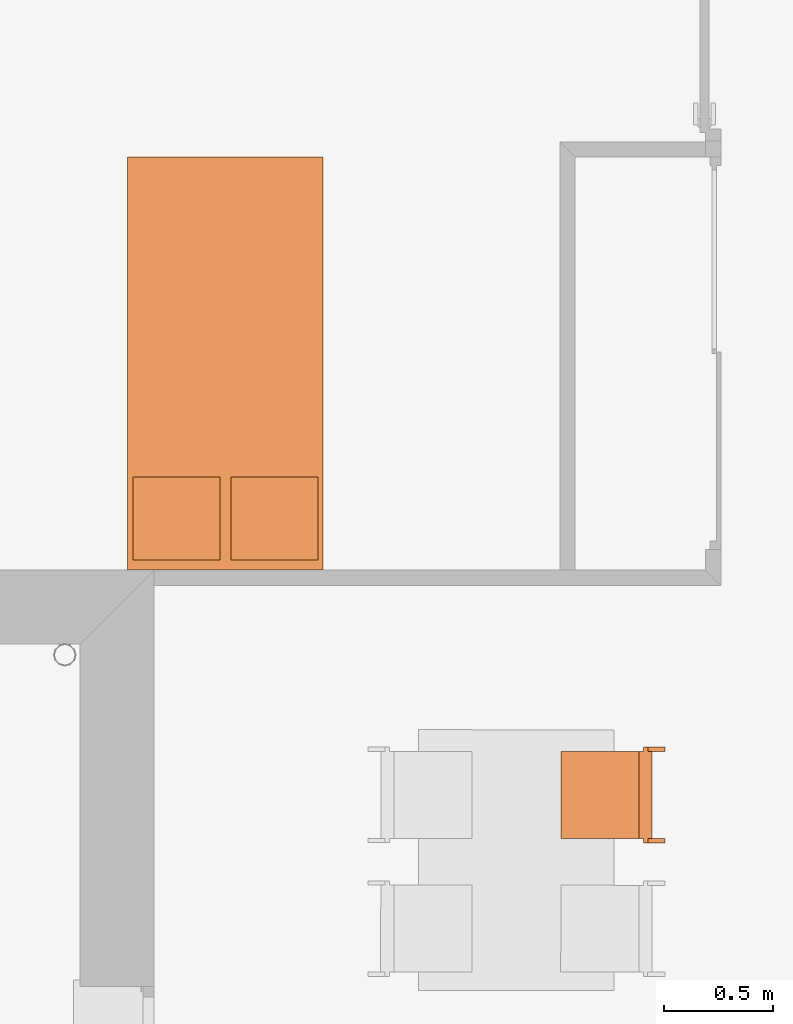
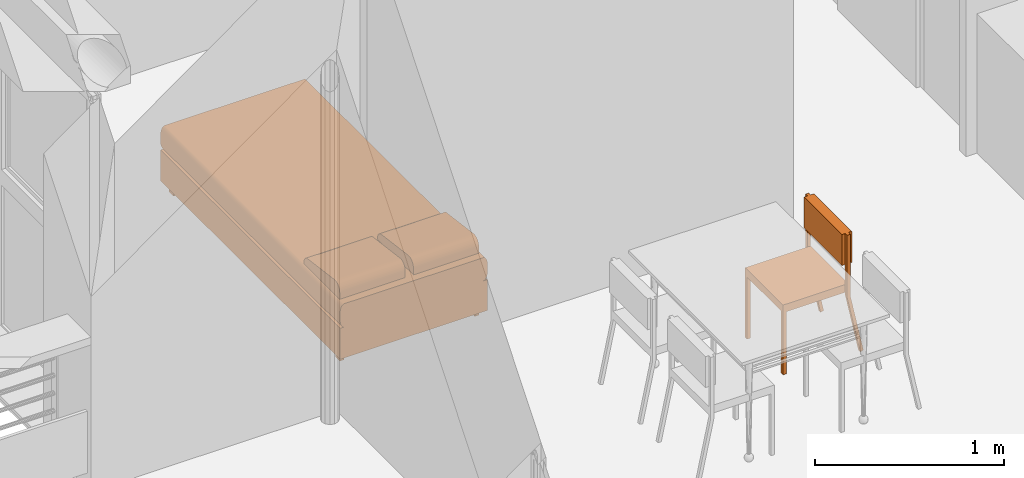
# One storey, part 144 of 164: 2 proxies.
"""IFC2X3 building model written with IfcOpenShell, lengths in millimetres."""

from ifc_helpers import new_model, entity, si_unit, converted_unit, derived_unit, money_unit, direction, frame, origin_with_axes, place, context, subcontext, project, spatial, open_shell, faceted_brep, surface_model, source, transform, mapped, type_object, element, save


model = new_model("IFC2X3")

# Units and contexts
model_context = context("Model", 3, precision=0.01, world=origin_with_axes(), true_north=direction((0.0, 1.0)))
body_context = subcontext(model_context, "Body", "Model", "MODEL_VIEW")
ifc_project = project(units=[si_unit("LENGTHUNIT", "METRE", prefix="MILLI"), si_unit("AREAUNIT", "SQUARE_METRE"), si_unit("VOLUMEUNIT", "CUBIC_METRE"), converted_unit("PLANEANGLEUNIT", "DEGREE", entity("IfcPlaneAngleMeasure", 0.0174532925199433), si_unit("PLANEANGLEUNIT", "RADIAN"), dimensions=[0, 0, 0, 0, 0, 0, 0]), money_unit("USD"), converted_unit("TIMEUNIT", "Year", entity("IfcTimeMeasure", 31557600.0), si_unit("TIMEUNIT", "SECOND"), dimensions=[0, 0, 1, 0, 0, 0, 0]), si_unit("MASSUNIT", "GRAM", prefix="KILO"), si_unit("THERMODYNAMICTEMPERATUREUNIT", "DEGREE_CELSIUS"), si_unit("LUMINOUSINTENSITYUNIT", "LUMEN"), si_unit("ENERGYUNIT", "JOULE", prefix="MEGA"), derived_unit("THERMALCONDUCTANCEUNIT", [(si_unit("POWERUNIT", "WATT"), 1), (si_unit("LENGTHUNIT", "METRE"), -1), (si_unit("THERMODYNAMICTEMPERATUREUNIT", "KELVIN"), -1)]), derived_unit("SPECIFICHEATCAPACITYUNIT", [(si_unit("ENERGYUNIT", "JOULE"), 1), (si_unit("MASSUNIT", "GRAM", prefix="KILO"), -1), (si_unit("THERMODYNAMICTEMPERATUREUNIT", "KELVIN"), -1)]), derived_unit("MASSDENSITYUNIT", [(si_unit("MASSUNIT", "GRAM", prefix="KILO"), 1), (si_unit("VOLUMEUNIT", "CUBIC_METRE"), -1)])], contexts=[model_context])

# Site, building, storey
site_placement = place(None, origin_with_axes())
site = spatial("IfcSite", under=ifc_project, at=site_placement, Name="Site", CompositionType="ELEMENT")
building_placement = place(site_placement, origin_with_axes())
building = spatial("IfcBuilding", under=site, at=building_placement, Name="Bâtiment", CompositionType="ELEMENT")
storey_placement = place(building_placement, frame((0.0, 0.0, 5750.0), z_axis=(0.0, 0.0, 1.0), x_axis=(1.0, 0.0, 0.0)))
storey = spatial("IfcBuildingStorey", under=building, at=storey_placement, Name="Etage1", CompositionType="ELEMENT", Elevation=5750.0)

# Proxies
building_element_proxy_type = type_object("IfcBuildingElementProxyType", PredefinedType="NOTDEFINED")
shared_shape_1 = source(origin_with_axes(), body_context, "Body", "Brep", [
    faceted_brep([(39.99999978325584, 0.0, 0.0), (19.99999989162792, 0.0, 0.0), (19.99999989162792, 19.99999936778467, 0.0), (39.99999978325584, 19.99999936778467, 0.0), (39.99999978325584, 0.0, 400.0), (19.99999989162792, 0.0, 400.0), (19.99999989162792, 19.99999936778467, 400.0), (39.99999978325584, 19.99999936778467, 400.0)], [[[0, 1, 2, 3]], [[1, 0, 4, 5]], [[2, 1, 5, 6]], [[3, 2, 6, 7]], [[0, 3, 7, 4]], [[5, 4, 7, 6]]]),
    faceted_brep([(419.9999977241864, 0.0, 0.0), (399.9999978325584, 0.0, 0.0), (399.9999978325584, 19.99999936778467, 0.0), (419.9999977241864, 19.99999936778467, 0.0), (419.9999977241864, 0.0, 400.0), (399.9999978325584, 0.0, 400.0), (399.9999978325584, 19.99999936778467, 400.0), (419.9999977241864, 19.99999936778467, 400.0)], [[[0, 1, 2, 3]], [[1, 0, 4, 5]], [[2, 1, 5, 6]], [[3, 2, 6, 7]], [[0, 3, 7, 4]], [[5, 4, 7, 6]]]),
    faceted_brep([(399.9999978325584, 0.0, 400.0000000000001), (39.99999978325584, 0.0, 400.0000000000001), (39.99999978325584, 19.99999936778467, 400.0000000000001), (399.9999978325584, 19.99999936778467, 400.0000000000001), (399.9999978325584, 0.0, 420.0000000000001), (39.99999978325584, 0.0, 420.0000000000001), (39.99999978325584, 19.99999936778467, 420.0000000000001), (399.9999978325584, 19.99999936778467, 420.0000000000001)], [[[0, 1, 2, 3]], [[1, 0, 4, 5]], [[2, 1, 5, 6]], [[3, 2, 6, 7]], [[0, 3, 7, 4]], [[5, 4, 7, 6]]]),
    faceted_brep([(39.99999978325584, 19.99999936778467, 400.0000000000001), (19.99999989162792, 19.99999936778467, 400.0000000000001), (19.99999989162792, 379.9999879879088, 400.0000000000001), (39.99999978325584, 379.9999879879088, 400.0000000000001), (39.99999978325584, 19.99999936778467, 420.0000000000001), (19.99999989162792, 19.99999936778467, 420.0000000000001), (19.99999989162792, 379.9999879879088, 420.0000000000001), (39.99999978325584, 379.9999879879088, 420.0000000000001)], [[[0, 1, 2, 3]], [[1, 0, 4, 5]], [[2, 1, 5, 6]], [[3, 2, 6, 7]], [[0, 3, 7, 4]], [[5, 4, 7, 6]]]),
    faceted_brep([(419.9999977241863, 379.9999879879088, 400.0000000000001), (19.99999989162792, 379.9999879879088, 400.0000000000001), (19.99999989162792, 399.9999873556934, 400.0000000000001), (419.9999977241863, 399.9999873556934, 400.0000000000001), (419.9999977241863, 379.9999879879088, 420.0000000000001), (19.99999989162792, 379.9999879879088, 420.0000000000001), (19.99999989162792, 399.9999873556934, 420.0000000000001), (419.9999977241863, 399.9999873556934, 420.0000000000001)], [[[0, 1, 2, 3]], [[1, 0, 4, 5]], [[2, 1, 5, 6]], [[3, 2, 6, 7]], [[0, 3, 7, 4]], [[5, 4, 7, 6]]]),
    faceted_brep([(419.9999977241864, 19.99999936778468, 400.0000000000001), (399.9999978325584, 19.99999936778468, 400.0000000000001), (399.9999978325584, 379.9999879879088, 400.0000000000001), (419.9999977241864, 379.9999879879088, 400.0000000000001), (419.9999977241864, 19.99999936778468, 420.0000000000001), (399.9999978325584, 19.99999936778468, 420.0000000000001), (399.9999978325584, 379.9999879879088, 420.0000000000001), (419.9999977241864, 379.9999879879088, 420.0000000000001)], [[[0, 1, 2, 3]], [[1, 0, 4, 5]], [[2, 1, 5, 6]], [[3, 2, 6, 7]], [[0, 3, 7, 4]], [[5, 4, 7, 6]]]),
    faceted_brep([(419.9999977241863, 0.0, 400.0), (19.99999989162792, 0.0, 400.0), (19.99999989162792, 399.9999873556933, 400.0), (419.9999977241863, 399.9999873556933, 400.0), (419.9999977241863, 0.0, 450.0), (19.99999989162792, 0.0, 450.0), (19.99999989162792, 399.9999873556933, 450.0), (419.9999977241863, 399.9999873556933, 450.0)], [[[0, 1, 2, 3]], [[1, 0, 4, 5]], [[2, 1, 5, 6]], [[3, 2, 6, 7]], [[0, 3, 7, 4]], [[5, 4, 7, 6]]]),
    faceted_brep([(19.99999989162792, 379.9999879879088, 380.0), (0.0, 379.9999879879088, 380.0), (0.0, 399.9999873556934, 380.0), (19.99999989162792, 399.9999873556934, 380.0), (19.99999989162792, 379.9999879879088, 780.0), (0.0, 379.9999879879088, 780.0), (0.0, 399.9999873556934, 780.0), (19.99999989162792, 399.9999873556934, 780.0)], [[[0, 1, 2, 3]], [[1, 0, 4, 5]], [[2, 1, 5, 6]], [[3, 2, 6, 7]], [[0, 3, 7, 4]], [[5, 4, 7, 6]]]),
    faceted_brep([(439.9999976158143, 379.9999879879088, 380.0), (419.9999977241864, 379.9999879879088, 380.0), (419.9999977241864, 399.9999873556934, 380.0), (439.9999976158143, 399.9999873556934, 380.0), (439.9999976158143, 379.9999879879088, 780.0), (419.9999977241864, 379.9999879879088, 780.0), (419.9999977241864, 399.9999873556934, 780.0), (439.9999976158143, 399.9999873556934, 780.0)], [[[0, 1, 2, 3]], [[1, 0, 4, 5]], [[2, 1, 5, 6]], [[3, 2, 6, 7]], [[0, 3, 7, 4]], [[5, 4, 7, 6]]]),
    faceted_brep([(419.9999977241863, 359.999988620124, 580.0000000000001), (19.99999989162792, 359.999988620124, 580.0000000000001), (19.99999989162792, 419.9999867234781, 580.0000000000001), (419.9999977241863, 419.9999867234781, 580.0000000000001), (419.9999977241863, 359.999988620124, 780.0), (19.99999989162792, 359.999988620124, 780.0), (19.99999989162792, 419.9999867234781, 780.0), (419.9999977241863, 419.9999867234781, 780.0)], [[[0, 1, 2, 3]], [[1, 0, 4, 5]], [[2, 1, 5, 6]], [[3, 2, 6, 7]], [[0, 3, 7, 4]], [[5, 4, 7, 6]]]),
    faceted_brep([(19.99999989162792, 459.9999854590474, 0.0), (0.0, 459.9999854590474, 0.0), (0.0, 479.5709559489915, 4.120326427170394), (19.99999989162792, 479.5709559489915, 4.120326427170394), (19.99999989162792, 379.997669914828, 379.999760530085), (0.0, 379.997669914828, 379.999760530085), (0.0, 399.5686404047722, 384.1200869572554), (19.99999989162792, 399.5686404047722, 384.1200869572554)], [[[0, 1, 2, 3]], [[1, 0, 4, 5]], [[2, 1, 5, 6]], [[3, 2, 6, 7]], [[0, 3, 7, 4]], [[5, 4, 7, 6]]]),
    faceted_brep([(439.9999976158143, 459.9999854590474, 0.0), (419.9999977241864, 459.9999854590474, 0.0), (419.9999977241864, 479.5709559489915, 4.120326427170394), (439.9999976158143, 479.5709559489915, 4.120326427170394), (439.9999976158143, 379.997669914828, 379.999760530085), (419.9999977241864, 379.997669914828, 379.999760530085), (419.9999977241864, 399.5686404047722, 384.1200869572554), (439.9999976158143, 399.5686404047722, 384.1200869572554)], [[[0, 1, 2, 3]], [[1, 0, 4, 5]], [[2, 1, 5, 6]], [[3, 2, 6, 7]], [[0, 3, 7, 4]], [[5, 4, 7, 6]]]),
])
proxy_1_placement = place(storey_placement, frame((2220345.250777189, -639490.6261789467, 0.0), z_axis=(0.0, 0.0, 1.0), x_axis=(-0.0005412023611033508, -0.9999998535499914, 0.0)))
element("IfcBuildingElementProxy", 1, at=proxy_1_placement, inside=storey, type_object=building_element_proxy_type, Name="Obj.-027", context=body_context, shape_type="MappedRepresentation", body=[
    mapped(shared_shape_1, transform((0.0, 0.0, 0.0))),
])
shared_shape_2 = source(origin_with_axes(), body_context, "Body", "SurfaceModel", [
    faceted_brep([(400.0, -95.0, 0.0), (400.0, -47.5, 0.0), (425.0000000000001, -47.5, 0.0), (425.0000000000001, -95.0, 0.0), (400.0, -95.0, 50.0), (400.0, -47.5, 50.0), (425.0000000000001, -47.5, 50.0), (425.0000000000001, -95.0, 50.0)], [[[0, 1, 2, 3]], [[0, 4, 5, 1]], [[1, 5, 6, 2]], [[2, 6, 7, 3]], [[3, 7, 4, 0]], [[7, 6, 5, 4]]]),
    faceted_brep([(400.0, -1852.5, 0.0), (400.0, -1805.0, 0.0), (425.0000000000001, -1805.0, 0.0), (425.0000000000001, -1852.5, 0.0), (400.0, -1852.5, 50.0), (400.0, -1805.0, 50.0), (425.0000000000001, -1805.0, 50.0), (425.0000000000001, -1852.5, 50.0)], [[[0, 1, 2, 3]], [[0, 4, 5, 1]], [[1, 5, 6, 2]], [[2, 6, 7, 3]], [[3, 7, 4, 0]], [[7, 6, 5, 4]]]),
    faceted_brep([(-425.0000000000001, -1852.5, 0.0), (-425.0000000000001, -1805.0, 0.0), (-400.0, -1805.0, 0.0), (-400.0, -1852.5, 0.0), (-425.0000000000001, -1852.5, 50.0), (-425.0000000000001, -1805.0, 50.0), (-400.0, -1805.0, 50.0), (-400.0, -1852.5, 50.0)], [[[0, 1, 2, 3]], [[0, 4, 5, 1]], [[1, 5, 6, 2]], [[2, 6, 7, 3]], [[3, 7, 4, 0]], [[7, 6, 5, 4]]]),
    faceted_brep([(-425.0000000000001, -94.99999999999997, 0.0), (-425.0000000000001, -47.49999999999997, 0.0), (-400.0, -47.49999999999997, 0.0), (-400.0, -94.99999999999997, 0.0), (-425.0000000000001, -94.99999999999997, 50.0), (-425.0000000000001, -47.49999999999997, 50.0), (-400.0, -47.49999999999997, 50.0), (-400.0, -94.99999999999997, 50.0)], [[[0, 1, 2, 3]], [[0, 4, 5, 1]], [[1, 5, 6, 2]], [[2, 6, 7, 3]], [[3, 7, 4, 0]], [[7, 6, 5, 4]]]),
    faceted_brep([(450.0, 0.0, 50.0), (450.0, -1900.0, 50.00000000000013), (-450.0, -1900.0, 50.00000000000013), (-450.0, 0.0, 50.0), (450.0, 0.0, 250.0), (450.0, -1900.0, 250.0000000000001), (-450.0, -1900.0, 250.0000000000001), (-450.0, 0.0, 250.0)], [[[0, 1, 2, 3]], [[4, 5, 1, 0]], [[1, 5, 6, 2]], [[3, 2, 6, 7]], [[0, 3, 7, 4]], [[7, 6, 5, 4]]]),
    surface_model("IfcShellBasedSurfaceModel", [(-425.0000000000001, 0.0, 250.0), (-425.0000000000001, -1900.0, 250.0000000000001), (-429.3412044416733, -1900.0, 250.7596123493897), (-429.3412044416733, 0.0, 250.7596123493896), (425.0000000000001, -1900.0, 250.0000000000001), (429.3412044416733, -1900.0, 250.7596123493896), (433.5505035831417, -1900.0, 253.0153689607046), (437.5, -1900.0, 256.6987298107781), (441.0696902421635, -1900.0, 261.6977778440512), (444.1511110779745, -1900.0, 267.8606195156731), (446.650635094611, -1900.0, 275.0000000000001), (448.4923155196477, -1900.0, 282.8989928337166), (449.6201938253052, -1900.0, 291.3175911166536), (450.0, -1900.0, 300.0000000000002), (450.0000000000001, -1900.0, 350.0000000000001), (449.6201938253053, -1900.0, 358.6824088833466), (448.4923155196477, -1900.0, 367.1010071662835), (446.650635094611, -1900.0, 375.0000000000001), (444.1511110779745, -1900.0, 382.1393804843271), (441.0696902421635, -1900.0, 388.302222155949), (437.5000000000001, -1900.0, 393.3012701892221), (433.5505035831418, -1900.0, 396.9846310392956), (429.3412044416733, -1900.0, 399.2403876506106), (425.0000000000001, -1900.0, 400.0000000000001), (-425.0, -1900.0, 400.0000000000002), (-429.3412044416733, -1900.0, 399.2403876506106), (-433.5505035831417, -1900.0, 396.9846310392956), (-437.5, -1900.0, 393.3012701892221), (-441.0696902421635, -1900.0, 388.302222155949), (-444.1511110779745, -1900.0, 382.1393804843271), (-446.6506350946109, -1900.0, 375.0000000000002), (-448.4923155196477, -1900.0, 367.1010071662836), (-449.6201938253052, -1900.0, 358.6824088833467), (-450.0, -1900.0, 350.0000000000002), (-450.0, -1900.0, 300.0000000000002), (-449.6201938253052, -1900.0, 291.3175911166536), (-448.4923155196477, -1900.0, 282.8989928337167), (-446.650635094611, -1900.0, 275.0000000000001), (-444.1511110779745, -1900.0, 267.8606195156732), (-441.0696902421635, -1900.0, 261.6977778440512), (-437.5000000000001, -1900.0, 256.6987298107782), (-433.5505035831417, -1900.0, 253.0153689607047), (-433.5505035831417, 0.0, 253.0153689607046), (425.0000000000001, 0.0, 250.0), (-437.5000000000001, 0.0, 256.698729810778), (-441.0696902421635, 0.0, 261.6977778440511), (-444.1511110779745, 0.0, 267.8606195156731), (-446.650635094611, 0.0, 275.0), (-448.4923155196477, 0.0, 282.8989928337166), (-449.6201938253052, 0.0, 291.3175911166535), (-450.0, 0.0, 300.0000000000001), (-450.0, 0.0, 350.0000000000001), (-449.6201938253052, 0.0, 358.6824088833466), (-448.4923155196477, 0.0, 367.1010071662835), (-446.6506350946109, 0.0, 375.0000000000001), (-444.1511110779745, 0.0, 382.139380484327), (-441.0696902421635, 0.0, 388.3022221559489), (-437.5, 0.0, 393.301270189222), (-433.5505035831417, 0.0, 396.9846310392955), (-429.3412044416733, 0.0, 399.2403876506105), (-425.0, 0.0, 400.0000000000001), (425.0000000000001, 0.0, 400.0), (429.3412044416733, 0.0, 399.2403876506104), (433.5505035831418, 0.0, 396.9846310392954), (437.5000000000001, 0.0, 393.301270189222), (441.0696902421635, 0.0, 388.3022221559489), (444.1511110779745, 0.0, 382.139380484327), (446.650635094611, 0.0, 375.0), (448.4923155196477, 0.0, 367.1010071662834), (449.6201938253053, 0.0, 358.6824088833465), (450.0000000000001, 0.0, 350.0), (450.0, 0.0, 300.0000000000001), (449.6201938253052, 0.0, 291.3175911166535), (448.4923155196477, 0.0, 282.8989928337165), (446.650635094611, 0.0, 275.0), (444.1511110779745, 0.0, 267.860619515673), (441.0696902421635, 0.0, 261.6977778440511), (437.5, 0.0, 256.698729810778), (433.5505035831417, 0.0, 253.0153689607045), (429.3412044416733, 0.0, 250.7596123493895)], [open_shell([[[0, 1, 2, 3]], [[4, 5, 6, 7, 8, 9, 10, 11, 12, 13, 14, 15, 16, 17, 18, 19, 20, 21, 22, 23, 24, 25, 26, 27, 28, 29, 30, 31, 32, 33, 34, 35, 36, 37, 38, 39, 40, 41, 2, 1]], [[3, 2, 41, 42]], [[43, 0, 3, 42, 44, 45, 46, 47, 48, 49, 50, 51, 52, 53, 54, 55, 56, 57, 58, 59, 60, 61, 62, 63, 64, 65, 66, 67, 68, 69, 70, 71, 72, 73, 74, 75, 76, 77, 78, 79]], [[79, 5, 4, 43]], [[78, 6, 5, 79]], [[77, 7, 6, 78]], [[76, 8, 7, 77]], [[75, 9, 8, 76]], [[74, 10, 9, 75]], [[73, 11, 10, 74]], [[72, 12, 11, 73]], [[71, 13, 12, 72]], [[70, 14, 13, 71]], [[69, 15, 14, 70]], [[68, 16, 15, 69]], [[67, 17, 16, 68]], [[66, 18, 17, 67]], [[65, 19, 18, 66]], [[64, 20, 19, 65]], [[63, 21, 20, 64]], [[62, 22, 21, 63]], [[61, 23, 22, 62]], [[60, 24, 23, 61]], [[59, 25, 24, 60]], [[58, 26, 25, 59]], [[57, 27, 26, 58]], [[56, 28, 27, 57]], [[55, 29, 28, 56]], [[54, 30, 29, 55]], [[53, 31, 30, 54]], [[52, 32, 31, 53]], [[51, 33, 32, 52]], [[50, 34, 33, 51]], [[49, 35, 34, 50]], [[48, 36, 35, 49]], [[47, 37, 36, 48]], [[46, 38, 37, 47]], [[45, 39, 38, 46]], [[44, 40, 39, 45]], [[42, 41, 40, 44]]])]),
    faceted_brep([(-24.99999999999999, -47.49999999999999, 400.0), (-425.0, -47.50000000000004, 400.0000000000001), (-425.0, -47.50000000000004, 443.4000000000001), (-24.99999999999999, -47.49999999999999, 443.4), (-24.99999999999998, -427.5, 400.0), (-425.0, -427.5, 400.0000000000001), (-425.0, -427.6960812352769, 408.6954428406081), (-425.0, -426.4675711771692, 417.2966661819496), (-425.0, -423.8511300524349, 425.5469991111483), (-425.0, -419.924835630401, 433.2002417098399), (-425.0, -414.8058532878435, 440.0280119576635), (-425.0, -408.6469396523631, 445.826560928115), (-425.0, -401.6318841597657, 450.4228529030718), (-425.0, -393.9700245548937, 453.6797289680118), (-425.0, -385.89, 455.5000000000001), (-425.0, -100.8900000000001, 493.0000000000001), (-425.0, -92.85488048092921, 493.3370808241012), (-425.0, -84.88093291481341, 492.2422169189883), (-425.0, -77.19681007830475, 489.7468034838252), (-425.0, -70.02285403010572, 485.922396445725), (-425.0, -63.56477780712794, 480.878660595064), (-425.0, -58.00776660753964, 474.7602249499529), (-425.0, -53.51116760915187, 467.7425355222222), (-425.0, -50.20392069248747, 460.0268244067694), (-425.0, -48.18086109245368, 451.8343394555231), (-24.99999999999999, -48.18086109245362, 451.834339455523), (-24.99999999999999, -50.20392069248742, 460.0268244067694), (-24.99999999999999, -53.51116760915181, 467.7425355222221), (-24.99999999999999, -58.00776660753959, 474.7602249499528), (-24.99999999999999, -63.56477780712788, 480.878660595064), (-24.99999999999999, -70.02285403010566, 485.922396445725), (-24.99999999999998, -77.19681007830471, 489.7468034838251), (-24.99999999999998, -84.88093291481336, 492.2422169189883), (-24.99999999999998, -92.85488048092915, 493.3370808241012), (-24.99999999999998, -100.89, 493.0000000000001), (-24.99999999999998, -385.89, 455.5), (-24.99999999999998, -393.9700245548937, 453.6797289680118), (-24.99999999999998, -401.6318841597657, 450.4228529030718), (-24.99999999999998, -408.6469396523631, 445.826560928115), (-24.99999999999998, -414.8058532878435, 440.0280119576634), (-24.99999999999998, -419.9248356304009, 433.2002417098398), (-24.99999999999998, -423.8511300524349, 425.5469991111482), (-24.99999999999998, -426.4675711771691, 417.2966661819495), (-24.99999999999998, -427.6960812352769, 408.695442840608)], [[[0, 1, 2, 3]], [[4, 5, 1, 0]], [[1, 5, 6, 7, 8, 9, 10, 11, 12, 13, 14, 15, 16, 17, 18, 19, 20, 21, 22, 23, 24, 2]], [[3, 2, 24, 25]], [[0, 3, 25, 26, 27, 28, 29, 30, 31, 32, 33, 34, 35, 36, 37, 38, 39, 40, 41, 42, 43, 4]], [[43, 6, 5, 4]], [[42, 7, 6, 43]], [[41, 8, 7, 42]], [[40, 9, 8, 41]], [[39, 10, 9, 40]], [[38, 11, 10, 39]], [[37, 12, 11, 38]], [[36, 13, 12, 37]], [[35, 14, 13, 36]], [[34, 15, 14, 35]], [[33, 16, 15, 34]], [[32, 17, 16, 33]], [[31, 18, 17, 32]], [[30, 19, 18, 31]], [[29, 20, 19, 30]], [[28, 21, 20, 29]], [[27, 22, 21, 28]], [[26, 23, 22, 27]], [[25, 24, 23, 26]]]),
    faceted_brep([(425.0000000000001, -47.49999999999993, 399.9999999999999), (25.00000000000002, -47.49999999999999, 400.0), (25.00000000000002, -47.49999999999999, 443.4), (425.0000000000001, -47.49999999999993, 443.4), (425.0000000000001, -427.4999999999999, 399.9999999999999), (25.00000000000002, -427.4999999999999, 400.0), (25.00000000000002, -427.6960812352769, 408.695442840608), (25.00000000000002, -426.4675711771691, 417.2966661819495), (25.00000000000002, -423.8511300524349, 425.5469991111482), (25.00000000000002, -419.9248356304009, 433.2002417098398), (25.00000000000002, -414.8058532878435, 440.0280119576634), (25.00000000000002, -408.6469396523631, 445.826560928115), (25.00000000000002, -401.6318841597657, 450.4228529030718), (25.00000000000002, -393.9700245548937, 453.6797289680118), (25.00000000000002, -385.8899999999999, 455.5), (25.00000000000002, -100.89, 493.0000000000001), (25.00000000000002, -92.85488048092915, 493.3370808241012), (25.00000000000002, -84.88093291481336, 492.2422169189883), (25.00000000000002, -77.19681007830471, 489.7468034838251), (25.00000000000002, -70.02285403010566, 485.922396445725), (25.00000000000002, -63.56477780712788, 480.878660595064), (25.00000000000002, -58.00776660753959, 474.7602249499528), (25.00000000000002, -53.51116760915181, 467.7425355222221), (25.00000000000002, -50.20392069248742, 460.0268244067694), (25.00000000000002, -48.18086109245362, 451.834339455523), (425.0000000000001, -48.18086109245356, 451.834339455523), (425.0000000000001, -50.20392069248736, 460.0268244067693), (425.0000000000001, -53.51116760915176, 467.7425355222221), (425.0000000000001, -58.00776660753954, 474.7602249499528), (425.0000000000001, -63.56477780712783, 480.8786605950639), (425.0000000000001, -70.0228540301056, 485.9223964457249), (425.0000000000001, -77.19681007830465, 489.7468034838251), (425.0000000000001, -84.8809329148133, 492.2422169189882), (425.0000000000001, -92.8548804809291, 493.3370808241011), (425.0000000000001, -100.89, 493.0), (425.0000000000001, -385.8899999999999, 455.4999999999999), (425.0000000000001, -393.9700245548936, 453.6797289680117), (425.0000000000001, -401.6318841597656, 450.4228529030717), (425.0000000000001, -408.646939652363, 445.8265609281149), (425.0000000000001, -414.8058532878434, 440.0280119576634), (425.0000000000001, -419.9248356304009, 433.2002417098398), (425.0000000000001, -423.8511300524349, 425.5469991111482), (425.0000000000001, -426.4675711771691, 417.2966661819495), (425.0000000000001, -427.6960812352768, 408.6954428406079)], [[[0, 1, 2, 3]], [[4, 5, 1, 0]], [[1, 5, 6, 7, 8, 9, 10, 11, 12, 13, 14, 15, 16, 17, 18, 19, 20, 21, 22, 23, 24, 2]], [[3, 2, 24, 25]], [[0, 3, 25, 26, 27, 28, 29, 30, 31, 32, 33, 34, 35, 36, 37, 38, 39, 40, 41, 42, 43, 4]], [[43, 6, 5, 4]], [[42, 7, 6, 43]], [[41, 8, 7, 42]], [[40, 9, 8, 41]], [[39, 10, 9, 40]], [[38, 11, 10, 39]], [[37, 12, 11, 38]], [[36, 13, 12, 37]], [[35, 14, 13, 36]], [[34, 15, 14, 35]], [[33, 16, 15, 34]], [[32, 17, 16, 33]], [[31, 18, 17, 32]], [[30, 19, 18, 31]], [[29, 20, 19, 30]], [[28, 21, 20, 29]], [[27, 22, 21, 28]], [[26, 23, 22, 27]], [[25, 24, 23, 26]]]),
])
proxy_2_placement = place(storey_placement, frame((2218802.049231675, -638676.8095642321, 0.0), z_axis=(0.0, 0.0, 1.0), x_axis=(-0.9999999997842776, -2.077125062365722e-05, 0.0)))
element("IfcBuildingElementProxy", 2, at=proxy_2_placement, inside=storey, type_object=building_element_proxy_type, Name="Obj.-003", context=body_context, shape_type="MappedRepresentation", body=[
    mapped(shared_shape_2, transform((0.0, 0.0, 0.0))),
])

save(model, "model.ifc")
